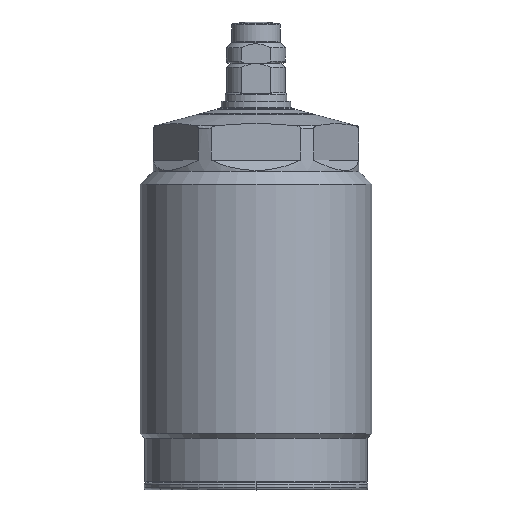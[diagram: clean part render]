
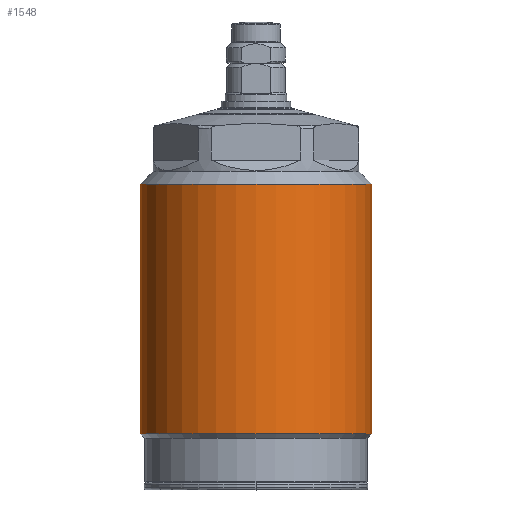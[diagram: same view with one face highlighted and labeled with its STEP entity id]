
A CAD part, top view. The second image highlights one B-rep face of the part: STEP entity #1548.
In plain terms, the highlighted cylindrical face has radius 22.5 mm (diameter 45 mm), a partial arc.
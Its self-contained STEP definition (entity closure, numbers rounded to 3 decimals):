
#1182=CYLINDRICAL_SURFACE('',#4150,22.5);
#1297=LINE('',#5820,#1426);
#1298=LINE('',#5821,#1427);
#1426=VECTOR('',#4715,1.);
#1427=VECTOR('',#4716,1.);
#1548=ADVANCED_FACE('',(#1805),#1182,.T.);
#1805=FACE_OUTER_BOUND('',#1984,.T.);
#1984=EDGE_LOOP('',(#2276,#2277,#2278,#2279));
#2276=ORIENTED_EDGE('',*,*,#3444,.T.);
#2277=ORIENTED_EDGE('',*,*,#3445,.F.);
#2278=ORIENTED_EDGE('',*,*,#3442,.F.);
#2279=ORIENTED_EDGE('',*,*,#3446,.T.);
#3158=VERTEX_POINT('',#5812);
#3159=VERTEX_POINT('',#5814);
#3160=VERTEX_POINT('',#5818);
#3161=VERTEX_POINT('',#5819);
#3442=EDGE_CURVE('',#3158,#3159,#3865,.T.);
#3444=EDGE_CURVE('',#3160,#3161,#3866,.T.);
#3445=EDGE_CURVE('',#3159,#3161,#1297,.T.);
#3446=EDGE_CURVE('',#3158,#3160,#1298,.T.);
#3865=CIRCLE('',#4147,22.5);
#3866=CIRCLE('',#4149,22.5);
#4147=AXIS2_PLACEMENT_3D('',#5813,#4708,#4709);
#4149=AXIS2_PLACEMENT_3D('',#5817,#4713,#4714);
#4150=AXIS2_PLACEMENT_3D('',#5822,#4717,#4718);
#4708=DIRECTION('',(0.,1.,0.));
#4709=DIRECTION('',(-1.,0.,0.));
#4713=DIRECTION('',(0.,1.,0.));
#4714=DIRECTION('',(-1.,0.,0.));
#4715=DIRECTION('',(0.,-1.,0.));
#4716=DIRECTION('',(0.,-1.,0.));
#4717=DIRECTION('',(0.,1.,0.));
#4718=DIRECTION('',(1.,0.,0.));
#5812=CARTESIAN_POINT('',(-22.5,58.1,0.));
#5813=CARTESIAN_POINT('',(0.,58.1,0.));
#5814=CARTESIAN_POINT('',(22.5,58.1,0.));
#5817=CARTESIAN_POINT('',(0.,9.6,0.));
#5818=CARTESIAN_POINT('',(-22.5,9.6,0.));
#5819=CARTESIAN_POINT('',(22.5,9.6,0.));
#5820=CARTESIAN_POINT('',(22.5,66.3,0.));
#5821=CARTESIAN_POINT('',(-22.5,66.3,0.));
#5822=CARTESIAN_POINT('',(0.,66.3,0.));
